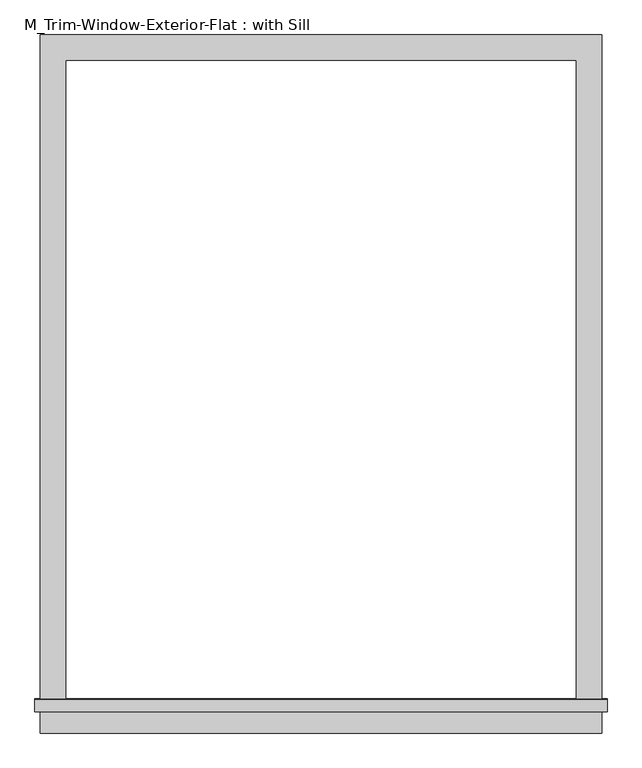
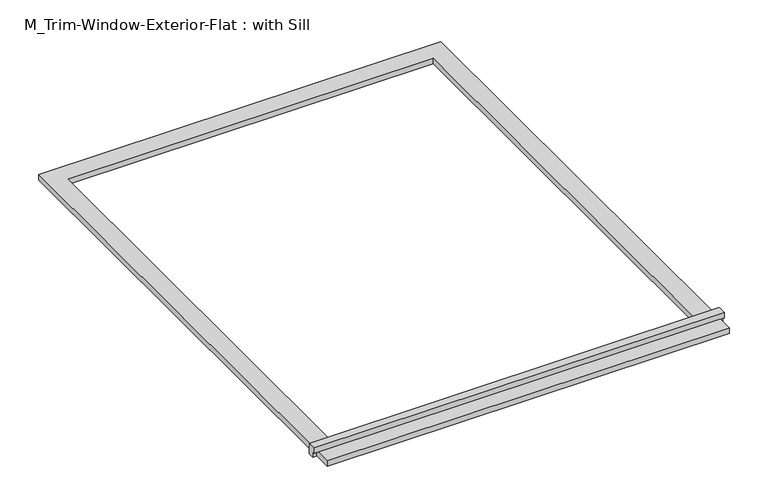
"""IFC4 building model written with IfcOpenShell, lengths in millimetres: proxy geometry, M_Trim-Window-Exterior-Flat : with Sill."""

import ifcopenshell
import ifcopenshell.guid

model = None  # the IFC model being written
_history = None  # IfcOwnerHistory: only IFC2X3 demands one
_inside = {}  # id of a spatial element -> (the spatial element, [elements in it])
_under = {}  # id of a project, library or spatial element -> (it, [spatial elements below it])
_declared = {}  # id of a project -> (the project, [libraries it declares])
_typed = {}  # id of a type object -> (the type object, [elements of that type])
_made_of = {}  # id of a material, layer set ... -> (it, [elements and type objects made of it])


def new_model(schema):
    """Start an empty IFC model of exactly this schema.

    Asked for "IFC4X3", IfcOpenShell would pick the latest addendum, in which some entities
    have other attributes; the version numbers below select the first issue.
    IFC2X3 requires an IfcOwnerHistory on every rooted entity: one is made here for all.
    """
    global model, _history
    if schema == "IFC4X3":
        model = ifcopenshell.file(schema_version=(4, 3, 0, 0))
    else:
        model = ifcopenshell.file(schema=schema)
    _inside.clear()
    _under.clear()
    _declared.clear()
    _typed.clear()
    _made_of.clear()
    _history = None
    if model.schema == "IFC2X3":
        org = make("IfcOrganization", Name="unknown")
        user = make(
            "IfcPersonAndOrganization",
            ThePerson=make("IfcPerson", FamilyName="unknown"),
            TheOrganization=org,
        )
        app = make(
            "IfcApplication",
            ApplicationDeveloper=org,
            Version="unknown",
            ApplicationFullName="unknown",
            ApplicationIdentifier="unknown",
        )
        _history = make(
            "IfcOwnerHistory",
            OwningUser=user,
            OwningApplication=app,
            ChangeAction="ADDED",
            CreationDate=0,
        )
    return model


def make(cls, **values):
    """One entity of the class cls with the attributes given. An attribute that is None is left unset."""
    return model.create_entity(
        cls, **{name: value for name, value in values.items() if value is not None}
    )


def rooted(cls, **values):
    """An entity with a GlobalId (a new one), such as an element, a storey or a relation."""
    return make(cls, GlobalId=ifcopenshell.guid.new(), OwnerHistory=_history, **values)


def si_unit(unit_type, name, prefix=None):
    """IfcSIUnit, for example si_unit("LENGTHUNIT", "METRE", prefix="MILLI")."""
    return make("IfcSIUnit", UnitType=unit_type, Prefix=prefix, Name=name)


def assignment(units):
    """IfcUnitAssignment: the units of a project."""
    return None if units is None else make("IfcUnitAssignment", Units=units)


def point(xyz):
    """IfcCartesianPoint."""
    return None if xyz is None else make("IfcCartesianPoint", Coordinates=xyz)


def direction(xyz):
    """IfcDirection."""
    return None if xyz is None else make("IfcDirection", DirectionRatios=xyz)


def frame(location, z_axis=None, x_axis=None):
    """IfcAxis2Placement3D, a coordinate frame: its origin and axes. An axis left out is left unset."""
    return make(
        "IfcAxis2Placement3D",
        Location=point(location),
        Axis=direction(z_axis),
        RefDirection=direction(x_axis),
    )


def origin():
    """The frame at (0, 0, 0) with its axes left unset."""
    return frame((0.0, 0.0, 0.0))


def origin_with_axes():
    """The frame at (0, 0, 0) with the z axis (0, 0, 1) and the x axis (1, 0, 0) written out."""
    return frame((0.0, 0.0, 0.0), z_axis=(0.0, 0.0, 1.0), x_axis=(1.0, 0.0, 0.0))


def place(relative_to, where):
    """IfcLocalPlacement: puts the frame where relative to a parent placement (None: the world)."""
    return make(
        "IfcLocalPlacement", PlacementRelTo=relative_to, RelativePlacement=where
    )


def context(
    kind, dimensions, precision=None, world=None, true_north=None, identifier=None
):
    """IfcGeometricRepresentationContext, for example the 3D "Model" context."""
    return make(
        "IfcGeometricRepresentationContext",
        ContextIdentifier=identifier,
        ContextType=kind,
        CoordinateSpaceDimension=dimensions,
        Precision=precision,
        WorldCoordinateSystem=world,
        TrueNorth=true_north,
    )


def project(units=None, contexts=None):
    """IfcProject with its units and contexts."""
    return rooted(
        "IfcProject",
        Name="project",
        RepresentationContexts=contexts,
        UnitsInContext=assignment(units),
    )


def spatial(cls, under=None, at=None, **own):
    """A site, building, storey or space (cls), placed at a placement, below another one or the project."""
    s = rooted(cls, ObjectPlacement=at, **own)
    if under is not None:
        _under.setdefault(under.id(), (under, []))[1].append(s)
    return s


def polyline(points):
    """IfcPolyline through the points."""
    return make("IfcPolyline", Points=[point(p) for p in points])


def outline(outer, holes=None, kind="AREA"):
    """IfcArbitraryClosedProfileDef: a profile drawn as a closed curve; with holes, ...WithVoids."""
    if holes is None:
        return make("IfcArbitraryClosedProfileDef", ProfileType=kind, OuterCurve=outer)
    return make(
        "IfcArbitraryProfileDefWithVoids",
        ProfileType=kind,
        OuterCurve=outer,
        InnerCurves=holes,
    )


def extrude(swept, where, along, depth):
    """IfcExtrudedAreaSolid: the profile swept, set in the frame where, extruded along a direction by depth."""
    return make(
        "IfcExtrudedAreaSolid",
        SweptArea=swept,
        Position=where,
        ExtrudedDirection=direction(along),
        Depth=depth,
    )


def shape(context_of_items, identifier, shape_type, items):
    """IfcShapeRepresentation: the items that make up one representation, for example the "Body"."""
    return make(
        "IfcShapeRepresentation",
        ContextOfItems=context_of_items,
        RepresentationIdentifier=identifier,
        RepresentationType=shape_type,
        Items=items,
    )


def source(mapping_origin, context_of_items, identifier, shape_type, items):
    """IfcRepresentationMap: a shape defined once, which mapped items show again and again."""
    return make(
        "IfcRepresentationMap",
        MappingOrigin=mapping_origin,
        MappedRepresentation=shape(context_of_items, identifier, shape_type, items),
    )


def transform(
    local_origin,
    x_axis=None,
    y_axis=None,
    z_axis=None,
    scale=None,
    scale2=None,
    scale3=None,
    uniform=True,
):
    """IfcCartesianTransformationOperator3D, or its non-uniform kind. x_axis, y_axis, z_axis: its Axis1, 2, 3."""
    if uniform:
        return make(
            "IfcCartesianTransformationOperator3D",
            Axis1=direction(x_axis),
            Axis2=direction(y_axis),
            LocalOrigin=point(local_origin),
            Scale=scale,
            Axis3=direction(z_axis),
        )
    return make(
        "IfcCartesianTransformationOperator3DnonUniform",
        Axis1=direction(x_axis),
        Axis2=direction(y_axis),
        LocalOrigin=point(local_origin),
        Scale=scale,
        Axis3=direction(z_axis),
        Scale2=scale2,
        Scale3=scale3,
    )


def mapped(mapping_source, mapping_target):
    """IfcMappedItem: shows the shape of a source again, moved by a transform."""
    return make(
        "IfcMappedItem", MappingSource=mapping_source, MappingTarget=mapping_target
    )


def made_of(thing, what):
    """Note that an element or type object is made of a material, layer set ...; save() writes the relation."""
    if what is not None:
        _made_of.setdefault(what.id(), (what, []))[1].append(thing)
    return thing


def element(
    cls,
    number,
    at=None,
    inside=None,
    cuts=None,
    type_object=None,
    material=None,
    context=None,
    identifier="Body",
    shape_type=None,
    held_by="IfcProductDefinitionShape",
    body=None,
    shapes=None,
    **own,
):
    """One element of the class cls, such as IfcWall. Its Tag is "e" and its number.

    at: its placement. inside: the storey or other place that contains it. cuts: it is an
    opening in that element (IfcRelVoidsElement). A single representation is given by context,
    identifier, shape_type and body (its items); several are given by shapes. held_by: the class
    of the entity that holds the representations. save() writes the other relations.
    """
    e = rooted(cls, Tag="e%d" % number, ObjectPlacement=at, **own)
    if body is not None:
        shapes = [shape(context, identifier, shape_type, body)]
    if shapes is not None:
        e.Representation = make(held_by, Representations=shapes)
    if inside is not None:
        _inside.setdefault(inside.id(), (inside, []))[1].append(e)
    if cuts is not None:
        rooted(
            "IfcRelVoidsElement", RelatingBuildingElement=cuts, RelatedOpeningElement=e
        )
    if type_object is not None:
        _typed.setdefault(type_object.id(), (type_object, []))[1].append(e)
    return made_of(e, material)


def aggregate(whole, parts):
    """IfcRelAggregates: a whole, such as a stair, and the parts it consists of."""
    return rooted("IfcRelAggregates", RelatingObject=whole, RelatedObjects=parts)


def save(model, path):
    """Write the relations noted so far, then the file.

    IfcRelAggregates (storeys below a building ...), IfcRelContainedInSpatialStructure (elements
    in a storey), IfcRelDefinesByType, IfcRelAssociatesMaterial and IfcRelDeclares: one each for
    every whole, place, type object, material and project.
    """
    for whole, parts in _under.values():
        aggregate(whole, parts)
    for where, things in _inside.values():
        rooted(
            "IfcRelContainedInSpatialStructure",
            RelatedElements=things,
            RelatingStructure=where,
        )
    for kind, things in _typed.values():
        rooted("IfcRelDefinesByType", RelatedObjects=things, RelatingType=kind)
    for what, things in _made_of.values():
        rooted("IfcRelAssociatesMaterial", RelatedObjects=things, RelatingMaterial=what)
    for by, libraries in _declared.values():
        rooted("IfcRelDeclares", RelatingContext=by, RelatedDefinitions=libraries)
    model.write(path)


def m_trim_window_exterior_flat_with_sill_a970d7bf(model_context):
    return source(origin(), model_context, "Body", "SweptSolid", [
        extrude(outline(polyline([(660.0, -1520.4323709), (660.0, -1580.4323709), (-660.0, -1580.4323709), (-660.0, -1520.4323709), (660.0, -1520.4323709)])), origin_with_axes(), (0.0, 0.0, 1.0), 19.05),
        extrude(outline(polyline([(-1530.0, 38.1), (-1502.4580645, 38.1), (-1500.0, 19.05), (-1500.0, 0.0), (-1520.4323709, 0.0), (-1520.4323709, 19.05), (-1530.0, 19.05), (-1530.0, 38.1)])), frame((-672.7, 0.0, 0.0), z_axis=(1.0, 0.0, 0.0), x_axis=(0.0, 1.0, 0.0)), (0.0, 0.0, 1.0), 1345.4),
        extrude(outline(polyline([(-660.0, 60.0), (660.0, 60.0), (660.0, -1500.0), (600.0, -1500.0), (600.0, 0.0), (-600.0, 0.0), (-600.0, -1500.0), (-660.0, -1500.0), (-660.0, 60.0)])), origin_with_axes(), (0.0, 0.0, 1.0), 19.05),
    ])


if __name__ == "__main__":
    model = new_model("IFC4")
    model_context = context("Model", 3, world=origin())
    ifc_project = project(units=[si_unit("LENGTHUNIT", "METRE", prefix="MILLI")], contexts=[model_context])
    site = spatial("IfcSite", under=ifc_project)
    building = spatial("IfcBuilding", under=site)
    placement = place(None, origin())
    m_trim_window_exterior_flat_with_sill_shape = m_trim_window_exterior_flat_with_sill_a970d7bf(model_context)
    element("IfcBuildingElementProxy", 1, Name="M_Trim-Window-Exterior-Flat : with Sill", ObjectType="M_Trim-Window-Exterior-Flat : with Sill", at=placement, inside=building, context=model_context, shape_type="MappedRepresentation", body=[
        mapped(m_trim_window_exterior_flat_with_sill_shape, transform((0.0, 0.0, 0.0), x_axis=(1.0, 0.0, 0.0), y_axis=(0.0, 1.0, 0.0), z_axis=(0.0, 0.0, 1.0))),
    ])
    save(model, "model.ifc")
